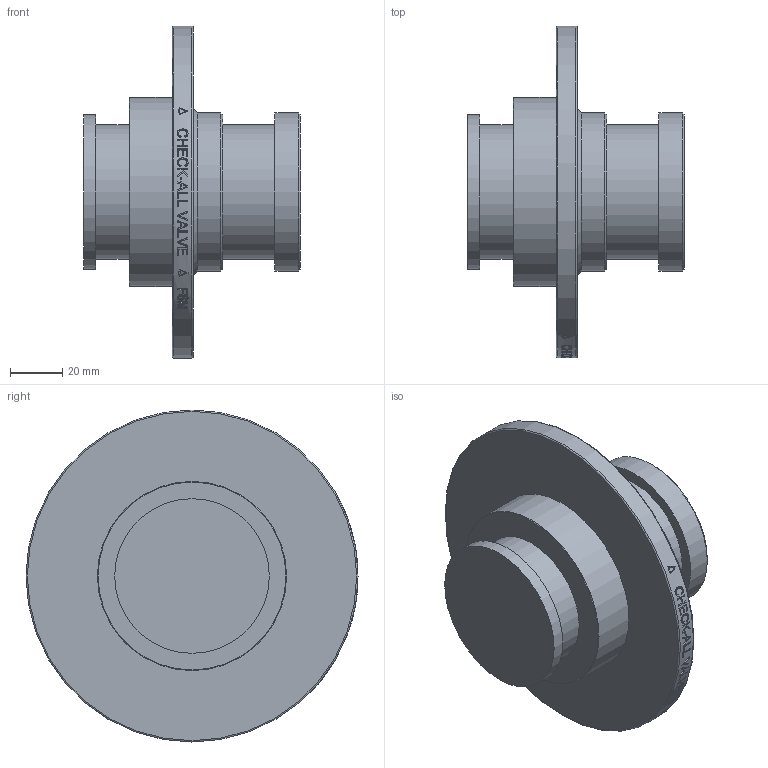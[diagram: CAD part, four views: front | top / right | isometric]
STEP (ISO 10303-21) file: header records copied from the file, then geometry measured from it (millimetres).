
FILE_DESCRIPTION( ( 'Unknown' ), '1' );
FILE_NAME( 'Y:/ENGR/3D Solid Edge Models/F6/F6 STEP/F6M.stp', 'Unknown', ( 'Unknown' ), ( 'Unknown' ), 'PSStep 14.0', 'Unknown', ' ' );
FILE_SCHEMA( ( 'AUTOMOTIVE_DESIGN { 1 0 10303 214 1 1 1 1 }' ) );
Length unit declared in the file: millimetre
Products named in the file (1): 1
Bounding box: 83.01 x 127 x 127 mm (x, y, z)
Volume: 311468.9 mm3; surface area: 44939.3 mm2
Topology: 1 solids, 1 shells, 214 faces, 540 edges, 358 vertices
Faces by surface type: plane 128, bspline 49, cylinder 31, torus 3, cone 3
Full cylindrical faces by diameter (mm): 51.435 x2, 59.182 x1, 60.452 x2, 72.365 x1, 127 x1
Entity records: 10171 total; most frequent: CARTESIAN_POINT 4475, ORIENTED_EDGE 1052, EDGE_CURVE 526, B_SPLINE_CURVE_WITH_KNOTS 506, DIRECTION 372, VERTEX_POINT 358, EDGE_LOOP 258, FACE_OUTER_BOUND 225
